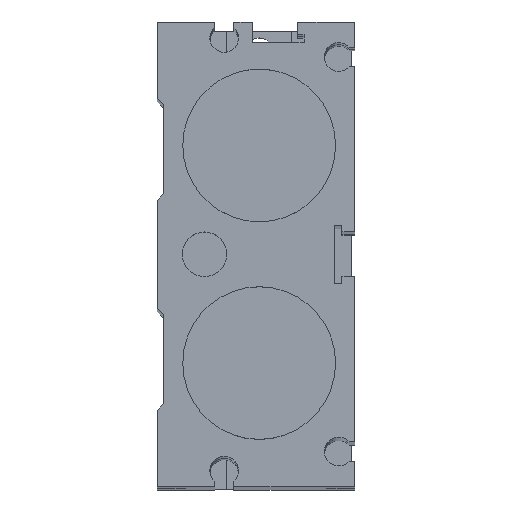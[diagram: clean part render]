
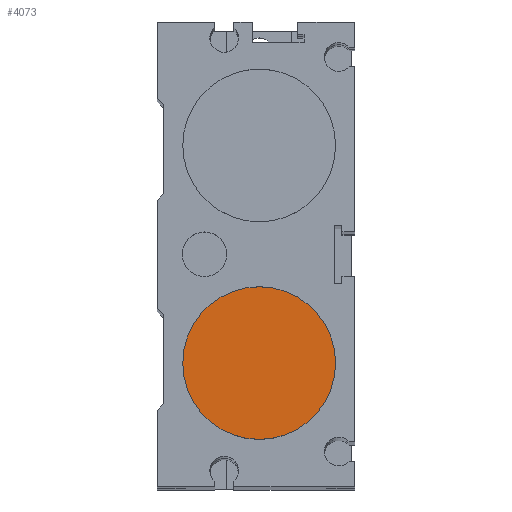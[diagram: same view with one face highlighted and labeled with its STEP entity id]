
A CAD part, top view. The second image highlights one B-rep face of the part: STEP entity #4073.
In plain terms, the highlighted planar face has unit normal (0, 0, 1).
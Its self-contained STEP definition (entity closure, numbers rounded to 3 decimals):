
#4050=CARTESIAN_POINT('',(12.,-17.1,581.0));
#4051=VERTEX_POINT('',#4050);
#4052=CARTESIAN_POINT('',(0.,-17.1,581.0));
#4053=DIRECTION('',(0.0,0.0,1.0));
#4054=DIRECTION('',(-1.0,0.0,0.0));
#4055=AXIS2_PLACEMENT_3D('',#4052,#4053,#4054);
#4056=CIRCLE('',#4055,12.);
#4057=EDGE_CURVE('',#4051,#4051,#4056,.T.);
#4065=CARTESIAN_POINT('',(0.,-17.1,581.0));
#4066=DIRECTION('',(0.0,0.0,-1.0));
#4067=DIRECTION('',(-1.0,0.0,0.0));
#4068=AXIS2_PLACEMENT_3D('',#4065,#4066,#4067);
#4069=PLANE('',#4068);
#4070=ORIENTED_EDGE('',*,*,#4057,.T.);
#4071=EDGE_LOOP('',(#4070));
#4072=FACE_OUTER_BOUND('',#4071,.T.);
#4073=ADVANCED_FACE('',(#4072),#4069,.F.);
